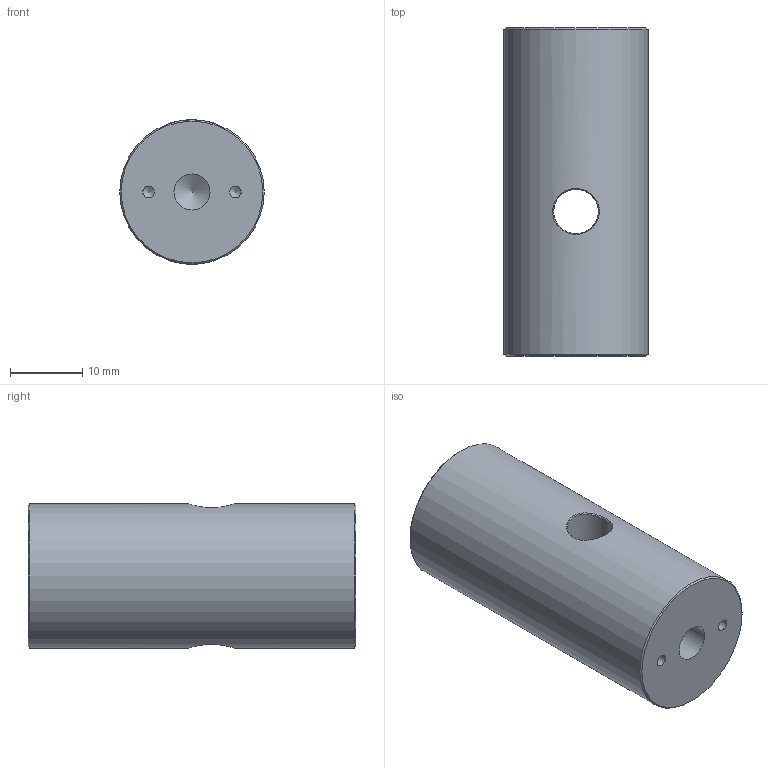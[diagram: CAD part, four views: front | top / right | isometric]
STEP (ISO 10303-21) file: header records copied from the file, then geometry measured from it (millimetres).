
FILE_DESCRIPTION (( 'STEP AP214' ), '1' );
FILE_NAME ('45_41mm 諉裝_phi_25.STEP', '2026-10-31T08:36:02', ( '' ), ( '' ), 'SwSTEP 2.0', 'SolidWorks 2022', '' );
FILE_SCHEMA (( 'AUTOMOTIVE_DESIGN' ));
Length unit declared in the file: millimetre
Products named in the file (1): 45_41mm 諉裝_phi_25
Bounding box: 20 x 45.41 x 20 mm (x, y, z)
Volume: 13333.4 mm3; surface area: 4192 mm2
Topology: 1 solids, 1 shells, 20 faces, 48 edges, 29 vertices
Faces by surface type: cylinder 8, cone 8, plane 2, bspline 2
Full cylindrical faces by diameter (mm): 1.6 x4, 3.3 x1, 5 x1, 6.167 x1, 20 x1
Entity records: 2684 total; most frequent: CARTESIAN_POINT 2255, DIRECTION 70, ORIENTED_EDGE 40, EDGE_LOOP 40, AXIS2_PLACEMENT_3D 35, FACE_OUTER_BOUND 30, VERTEX_POINT 20, EDGE_CURVE 20
